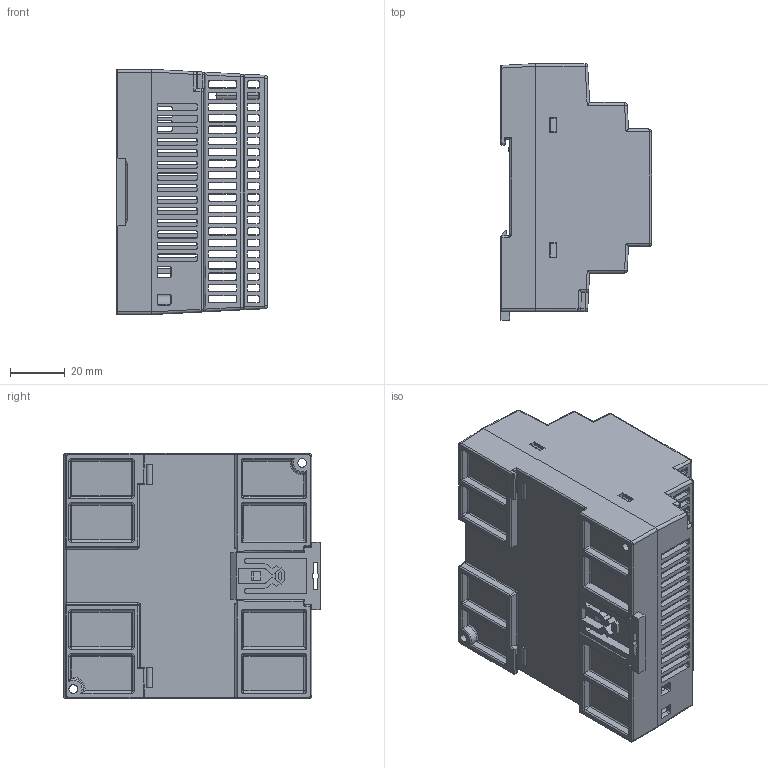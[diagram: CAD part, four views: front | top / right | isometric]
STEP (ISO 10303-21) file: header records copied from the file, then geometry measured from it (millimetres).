
FILE_DESCRIPTION((''),'2;1');
FILE_NAME('DRC-24V100W1AZ_ASM','2013-01-30T',('Manop.Pr'),(''),'PRO/ENGINEER BY PARAMETRIC TECHNOLOGY CORPORATION, 2010180','PRO/ENGINEER BY PARAMETRIC TECHNOLOGY CORPORATION, 2010180','');
FILE_SCHEMA(('CONFIG_CONTROL_DESIGN','SHAPE_APPEARANCE_LAYERS_GROUPS'));
Products named in the file (6): CHASSIS; COVER; 3421026502; LENS; LABEL; DRC-24V100W1AZ_ASM
Assembly tree (5 placements, depth 2):
  DRC-24V100W1AZ_ASM
    CHASSIS
    COVER
    3421026502
    LENS
    LABEL
Bounding box: 55.5 x 94.15 x 90 mm (x, y, z)
Volume: 63297.7 mm3; surface area: 77238.1 mm2
Topology: 5 solids, 5 shells, 2774 faces, 7706 edges, 4981 vertices
Faces by surface type: plane 1419, cylinder 788, extrusion 386, sphere 62, cone 58, bspline 52, torus 9
Entity records: 121031 total; most frequent: CARTESIAN_POINT 29588, ORIENTED_EDGE 15288, DIRECTION 11311, PRESENTATION_STYLE_ASSIGNMENT 7709, EDGE_CURVE 7644, STYLED_ITEM 7626, CURVE_STYLE 7622, VECTOR 5383
